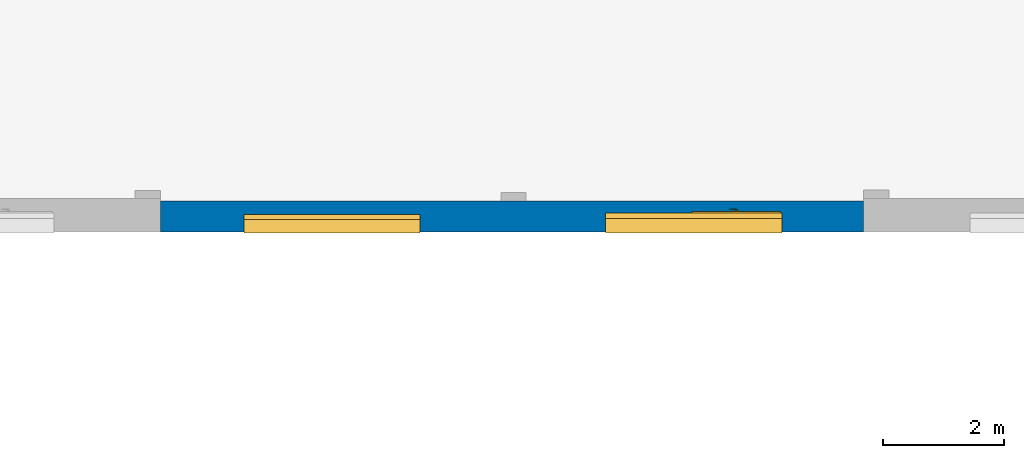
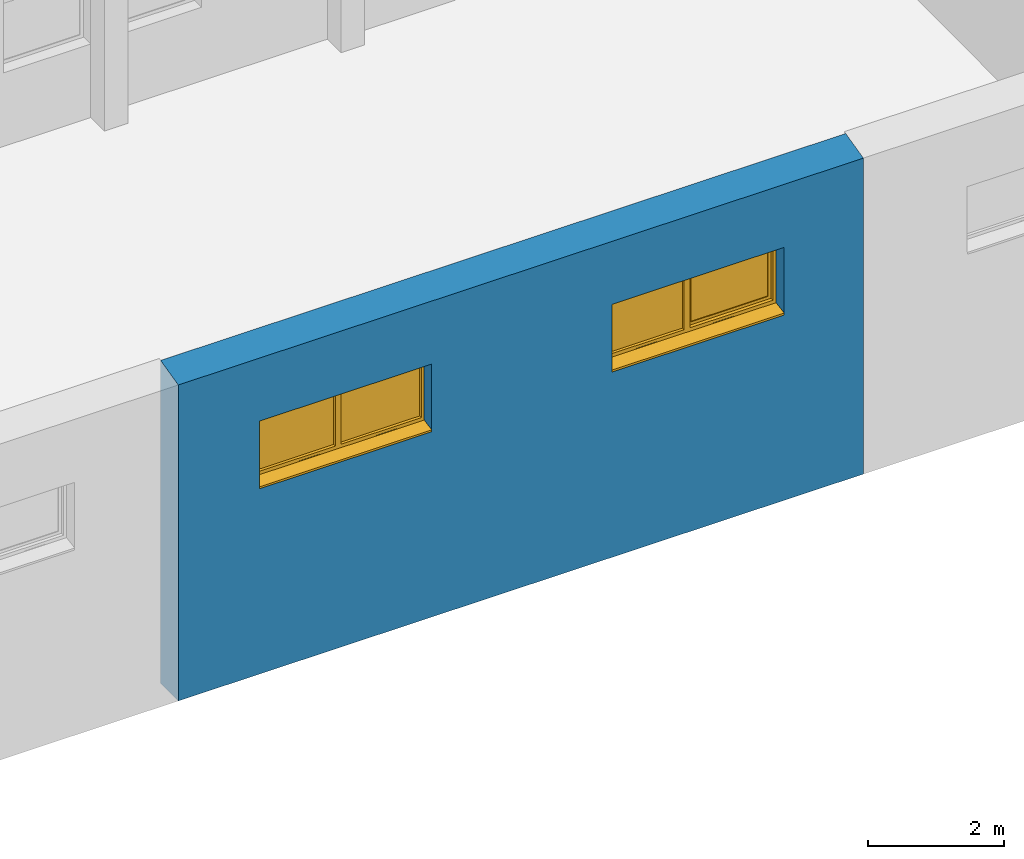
# One storey, part 156 of 301: 2 windows, 1 wall, 2 openings.
"""IFC2X3 building model written with IfcOpenShell, lengths in millimetres."""

from ifc_helpers import new_model, entity, si_unit, converted_unit, derived_unit, money_unit, direction, frame, origin_with_axes, place, context, subcontext, project, spatial, open_shell, faceted_brep, surface_model, material, type_object, element, fill, save


model = new_model("IFC2X3")

# Units and contexts
model_context = context("Model", 3, precision=0.01, world=origin_with_axes(), true_north=direction((0.0, 1.0)))
body_context = subcontext(model_context, "Body", "Model", "MODEL_VIEW")
ifc_project = project(units=[si_unit("LENGTHUNIT", "METRE", prefix="MILLI"), si_unit("AREAUNIT", "SQUARE_METRE"), si_unit("VOLUMEUNIT", "CUBIC_METRE"), converted_unit("PLANEANGLEUNIT", "DEGREE", entity("IfcPlaneAngleMeasure", 0.0174532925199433), si_unit("PLANEANGLEUNIT", "RADIAN"), dimensions=[0, 0, 0, 0, 0, 0, 0]), money_unit("EUR"), converted_unit("TIMEUNIT", "Year", entity("IfcTimeMeasure", 31557600.0), si_unit("TIMEUNIT", "SECOND"), dimensions=[0, 0, 1, 0, 0, 0, 0]), si_unit("MASSUNIT", "GRAM", prefix="KILO"), si_unit("THERMODYNAMICTEMPERATUREUNIT", "DEGREE_CELSIUS"), si_unit("LUMINOUSINTENSITYUNIT", "LUMEN"), si_unit("ENERGYUNIT", "JOULE", prefix="MEGA"), derived_unit("THERMALCONDUCTANCEUNIT", [(si_unit("POWERUNIT", "WATT"), 1), (si_unit("LENGTHUNIT", "METRE"), -1), (si_unit("THERMODYNAMICTEMPERATUREUNIT", "KELVIN"), -1)]), derived_unit("SPECIFICHEATCAPACITYUNIT", [(si_unit("ENERGYUNIT", "JOULE"), 1), (si_unit("MASSUNIT", "GRAM", prefix="KILO"), -1), (si_unit("THERMODYNAMICTEMPERATUREUNIT", "KELVIN"), -1)]), derived_unit("MASSDENSITYUNIT", [(si_unit("MASSUNIT", "GRAM", prefix="KILO"), 1), (si_unit("VOLUMEUNIT", "CUBIC_METRE"), -1)])], contexts=[model_context])

# Site, building, storey
site_placement = place(None, frame((0.0, 0.0, 8650.0), z_axis=(0.0, 0.0, 1.0), x_axis=(1.0, 0.0, 0.0)))
site = spatial("IfcSite", under=ifc_project, at=site_placement, Name="43301:001:0844", CompositionType="ELEMENT")
building_placement = place(site_placement, origin_with_axes())
building = spatial("IfcBuilding", under=site, at=building_placement, Name="Kuressaare Ametikooli tuulikute mehaanikute õppekorpus", CompositionType="ELEMENT")
storey_placement = place(building_placement, origin_with_axes())
storey = spatial("IfcBuildingStorey", under=building, at=storey_placement, Name="1.korrus", CompositionType="ELEMENT", Elevation=0.0)

# Wall, openings, windows
ifc_material = material(Name="GENEERILINE - KONSTRUKTRIOON")
wall_type = type_object("IfcWallType", Name="GENEERILINE - KONSTRUKTRIOON 520", PredefinedType="NOTDEFINED")
wall_placement = place(storey_placement, frame((170160.8131118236, 13517.65771690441, -1000.0), z_axis=(0.0, 0.0, 1.0), x_axis=(-1.0, 0.0, 0.0)))
wall = element("IfcWall", 1, at=wall_placement, inside=storey, type_object=wall_type, material=ifc_material, Name="VS-XX", context=body_context, shape_type="Brep", body=[
    faceted_brep([(11630.23317256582, -519.9999999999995, 5796.617852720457), (0.0, -519.9999999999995, 5796.617852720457), (0.0, -519.9999999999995, 0.0), (11630.23317256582, -520.0000000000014, 0.0), (7333.704679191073, -520.0000000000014, 3420.0), (7333.704679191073, -520.0000000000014, 4540.0), (10253.70467919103, -520.0000000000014, 4540.0), (10253.70467919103, -520.0000000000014, 3420.0), (4270.09379770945, -519.9999999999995, 4540.0), (4270.09379770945, -519.9999999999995, 3420.0), (1350.093797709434, -519.9999999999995, 3420.0), (1350.093797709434, -519.9999999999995, 4540.0), (0.0, 0.0, 5670.001135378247), (11630.23317256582, 0.0, 5670.001135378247), (0.0, 0.0, 0.0), (11630.23317256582, 0.0, 0.0), (7333.704679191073, -210.0000000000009, 3420.0), (7333.704679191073, -210.0000000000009, 4540.0), (10253.70467919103, -210.0000000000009, 4540.0), (10253.70467919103, -210.0000000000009, 3420.0), (4270.09379770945, -230.0000000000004, 3420.0), (4270.09379770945, -230.0000000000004, 4540.0), (1350.093797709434, -230.0000000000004, 3420.0), (1350.093797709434, -230.0000000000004, 4540.0), (7333.704679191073, 0.0, 4540.0), (7333.704679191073, 0.0, 3370.0), (10253.70467919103, 0.0, 3370.0), (10253.70467919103, 0.0, 4540.0), (4270.09379770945, 0.0, 3370.0), (4270.09379770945, 0.0, 4540.0), (1350.093797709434, 0.0, 4540.0), (1350.093797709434, 0.0, 3370.0), (7333.704679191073, -210.0000000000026, 3370.0), (10253.70467919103, -210.0000000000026, 3370.0), (4270.09379770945, -230.0000000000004, 3370.0), (1350.093797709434, -230.0000000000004, 3370.0)], [[[0, 1, 2, 3], [4, 5, 6, 7], [8, 9, 10, 11]], [[12, 1, 0, 13]], [[1, 12, 14, 2]], [[2, 14, 15, 3]], [[13, 0, 3, 15]], [[4, 16, 17, 5]], [[5, 17, 18, 6]], [[6, 18, 19, 7]], [[7, 19, 16, 4]], [[20, 9, 8, 21]], [[22, 10, 9, 20]], [[23, 11, 10, 22]], [[21, 8, 11, 23]], [[12, 13, 15, 14], [24, 25, 26, 27], [28, 29, 30, 31]], [[25, 24, 17, 16, 32]], [[17, 24, 27, 18]], [[26, 33, 19, 18, 27]], [[19, 33, 32, 16]], [[34, 20, 21, 29, 28]], [[35, 22, 20, 34]], [[30, 23, 22, 35, 31]], [[29, 21, 23, 30]], [[32, 33, 26, 25]], [[28, 31, 35, 34]]]),
])
opening_1_placement = place(wall_placement, frame((8793.704679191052, 0.0, 3420.0), z_axis=(0.0, 0.0, 1.0), x_axis=(1.0, 0.0, 0.0)))
opening_1 = element("IfcOpeningElement", 2, at=opening_1_placement, cuts=wall, Name="VA-XX", context=body_context, shape_type="Brep", body=[
    faceted_brep([(-1459.99999999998, -210.0000000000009, 0.0), (-1459.99999999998, -210.0000000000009, 1120.0), (-1459.99999999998, 0.9999999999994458, 1120.0), (-1459.99999999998, 0.9999999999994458, -49.99999999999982), (-1459.99999999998, -210.0000000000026, -49.99999999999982), (-1459.99999999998, -520.999999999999, 0.0), (-1459.99999999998, -520.999999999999, 1120.0), (1459.99999999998, -210.0000000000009, 1120.0), (1459.99999999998, 0.9999999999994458, 1120.0), (1459.99999999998, 0.9999999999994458, -49.99999999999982), (1459.99999999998, -210.0000000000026, -49.99999999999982), (1459.99999999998, -210.0000000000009, 0.0), (1459.99999999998, -520.999999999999, 0.0), (1459.99999999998, -520.999999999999, 1120.0)], [[[0, 1, 2, 3, 4]], [[1, 0, 5, 6]], [[1, 7, 8, 2]], [[8, 9, 3, 2]], [[10, 4, 3, 9]], [[11, 0, 4, 10]], [[0, 11, 12, 5]], [[6, 5, 12, 13]], [[7, 1, 6, 13]], [[7, 11, 10, 9, 8]], [[11, 7, 13, 12]]]),
])
opening_2_placement = place(wall_placement, frame((2810.093797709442, 0.0, 3420.0), z_axis=(0.0, 0.0, 1.0), x_axis=(1.0, 0.0, 0.0)))
opening_2 = element("IfcOpeningElement", 3, at=opening_2_placement, cuts=wall, Name="VA-XX", context=body_context, shape_type="Brep", body=[
    faceted_brep([(-1460.000000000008, -230.0000000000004, 0.0), (-1460.000000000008, -230.0000000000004, 1120.0), (-1460.000000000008, 1.000000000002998, 1120.0), (-1460.000000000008, 1.000000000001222, -49.99999999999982), (-1460.000000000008, -230.0000000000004, -49.99999999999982), (-1460.000000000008, -520.999999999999, 0.0), (-1460.000000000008, -520.999999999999, 1120.0), (1460.000000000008, -230.0000000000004, 1120.0), (1460.000000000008, 1.000000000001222, 1120.0), (1460.000000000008, 1.000000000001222, -49.99999999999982), (1460.000000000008, -230.0000000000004, -49.99999999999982), (1460.000000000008, -230.0000000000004, 0.0), (1460.000000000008, -520.999999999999, 0.0), (1460.000000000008, -520.999999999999, 1120.0)], [[[0, 1, 2, 3, 4]], [[1, 0, 5, 6]], [[1, 7, 8, 2]], [[8, 9, 3, 2]], [[10, 4, 3, 9]], [[11, 0, 4, 10]], [[0, 11, 12, 5]], [[6, 5, 12, 13]], [[7, 1, 6, 13]], [[7, 11, 10, 9, 8]], [[11, 7, 13, 12]]]),
])
window_style_1 = type_object("IfcWindowStyle", Name="Double Window 27", ConstructionType="NOTDEFINED", OperationType="DOUBLE_PANEL_VERTICAL", ParameterTakesPrecedence=False, Sizeable=False)
window_1_placement = place(opening_1_placement, frame((1459.99999999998, 0.0, 0.0), z_axis=(0.0, 0.0, 1.0), x_axis=(-1.0, 0.0, 0.0)))
window_1 = element("IfcWindow", 4, at=window_1_placement, inside=storey, type_object=window_style_1, Name="VA-XX", OverallHeight=1120.0, OverallWidth=2920.0, context=body_context, shape_type="SurfaceModel", body=[
    surface_model("IfcShellBasedSurfaceModel", [(0.0, 209.0000000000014, -9.999999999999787), (0.0, -9.99999999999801, -51.9047619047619), (2919.999999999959, -9.99999999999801, -51.9047619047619), (2919.999999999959, 209.0000000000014, -10.00000000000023), (0.0, -9.99999999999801, -86.9047619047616), (2919.999999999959, -9.99999999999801, -86.90476190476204), (2919.999999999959, 209.0000000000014, 0.0), (0.0, 209.0000000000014, 0.0), (0.0, -4.999999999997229, -81.9047619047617), (2919.999999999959, -4.999999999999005, -81.90476190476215)], [open_shell([[[0, 1, 2, 3]], [[4, 5, 2, 1]], [[0, 3, 6, 7]], [[8, 9, 5, 4]]])]),
    faceted_brep([(2869.999999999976, 210.0000000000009, 1070.0), (2919.999999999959, 210.0000000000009, 1070.0), (2919.999999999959, 295.0000000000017, 1070.0), (2869.999999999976, 295.0000000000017, 1070.0), (2869.999999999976, 210.0000000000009, 49.99999999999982), (2919.999999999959, 210.0000000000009, 49.99999999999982), (2919.999999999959, 295.0000000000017, 49.99999999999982), (2869.999999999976, 295.0000000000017, 49.99999999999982)], [[[0, 1, 2, 3]], [[0, 4, 5, 1]], [[1, 5, 6, 2]], [[3, 2, 6, 7]], [[4, 0, 3, 7]], [[5, 4, 7, 6]]]),
    faceted_brep([(49.99999999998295, 210.0000000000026, 49.99999999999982), (0.0, 210.0000000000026, 49.99999999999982), (0.0, 295.0000000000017, 49.99999999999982), (49.99999999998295, 295.0000000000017, 49.99999999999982), (49.99999999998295, 210.0000000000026, 1070.0), (0.0, 210.0000000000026, 1070.0), (0.0, 295.0000000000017, 1070.0), (49.99999999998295, 295.0000000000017, 1070.0)], [[[0, 1, 2, 3]], [[0, 4, 5, 1]], [[1, 5, 6, 2]], [[3, 2, 6, 7]], [[4, 0, 3, 7]], [[5, 4, 7, 6]]]),
    faceted_brep([(1509.999999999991, 210.0000000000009, 49.99999999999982), (1409.999999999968, 210.0000000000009, 49.99999999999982), (1409.999999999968, 295.0000000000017, 49.99999999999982), (1509.999999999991, 295.0000000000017, 49.99999999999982), (1509.999999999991, 210.0000000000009, 1070.0), (1409.999999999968, 210.0000000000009, 1070.0), (1409.999999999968, 295.0000000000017, 1070.0), (1509.999999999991, 295.0000000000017, 1070.0)], [[[0, 1, 2, 3]], [[0, 4, 5, 1]], [[1, 5, 6, 2]], [[3, 2, 6, 7]], [[4, 0, 3, 7]], [[5, 4, 7, 6]]]),
    faceted_brep([(2869.999999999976, 210.0000000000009, 49.99999999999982), (2919.999999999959, 210.0000000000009, 49.99999999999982), (2919.999999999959, 295.0000000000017, 49.99999999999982), (2869.999999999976, 295.0000000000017, 49.99999999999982), (1509.999999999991, 210.0000000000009, 49.99999999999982), (1409.999999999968, 210.0000000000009, 49.99999999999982), (49.99999999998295, 210.0000000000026, 49.99999999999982), (0.0, 210.0000000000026, 49.99999999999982), (0.0, 210.0000000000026, 0.0), (2919.999999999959, 210.0000000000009, 0.0), (2919.999999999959, 295.0000000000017, 0.0), (0.0, 295.0000000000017, 0.0), (0.0, 295.0000000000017, 49.99999999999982), (49.99999999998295, 295.0000000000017, 49.99999999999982), (1409.999999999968, 295.0000000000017, 49.99999999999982), (1509.999999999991, 295.0000000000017, 49.99999999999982)], [[[0, 1, 2, 3]], [[0, 4, 5, 6, 7, 8, 9, 1]], [[1, 9, 10, 2]], [[3, 2, 10, 11, 12, 13, 14, 15]], [[4, 0, 3, 15]], [[5, 4, 15, 14]], [[6, 5, 14, 13]], [[7, 6, 13, 12]], [[8, 7, 12, 11]], [[9, 8, 11, 10]]]),
    faceted_brep([(1509.999999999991, 210.0000000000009, 1070.0), (1409.999999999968, 210.0000000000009, 1070.0), (1409.999999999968, 295.0000000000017, 1070.0), (1509.999999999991, 295.0000000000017, 1070.0), (2869.999999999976, 210.0000000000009, 1070.0), (2919.999999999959, 210.0000000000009, 1070.0), (2919.999999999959, 210.0000000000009, 1120.0), (0.0, 210.0000000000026, 1120.0), (0.0, 210.0000000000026, 1070.0), (49.99999999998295, 210.0000000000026, 1070.0), (49.99999999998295, 295.0000000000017, 1070.0), (0.0, 295.0000000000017, 1070.0), (0.0, 295.0000000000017, 1120.0), (2919.999999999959, 295.0000000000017, 1120.0), (2919.999999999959, 295.0000000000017, 1070.0), (2869.999999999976, 295.0000000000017, 1070.0)], [[[0, 1, 2, 3]], [[0, 4, 5, 6, 7, 8, 9, 1]], [[1, 9, 10, 2]], [[3, 2, 10, 11, 12, 13, 14, 15]], [[4, 0, 3, 15]], [[5, 4, 15, 14]], [[6, 5, 14, 13]], [[7, 6, 13, 12]], [[8, 7, 12, 11]], [[9, 8, 11, 10]]]),
    surface_model("IfcShellBasedSurfaceModel", [(2869.999999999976, 260.0000000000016, 49.99999999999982), (2869.999999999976, 260.0000000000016, 1070.0), (1509.999999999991, 260.0000000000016, 1070.0), (1509.999999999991, 260.0000000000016, 49.99999999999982)], [open_shell([[[0, 1, 2, 3]]])]),
    surface_model("IfcShellBasedSurfaceModel", [(2869.999999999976, 280.0000000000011, 49.99999999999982), (1509.999999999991, 280.0000000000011, 49.99999999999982), (1509.999999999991, 280.0000000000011, 1070.0), (2869.999999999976, 280.0000000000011, 1070.0)], [open_shell([[[0, 1, 2, 3]]])]),
    surface_model("IfcShellBasedSurfaceModel", [(1409.999999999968, 260.0000000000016, 49.99999999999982), (1409.999999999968, 260.0000000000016, 1070.0), (49.99999999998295, 260.0000000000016, 1070.0), (49.99999999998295, 260.0000000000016, 49.99999999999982)], [open_shell([[[0, 1, 2, 3]]])]),
    surface_model("IfcShellBasedSurfaceModel", [(1409.999999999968, 280.0000000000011, 49.99999999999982), (49.99999999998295, 280.0000000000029, 49.99999999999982), (49.99999999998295, 280.0000000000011, 1070.0), (1409.999999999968, 280.0000000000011, 1070.0)], [open_shell([[[0, 1, 2, 3]]])]),
])
fill(opening_1, window_1)
window_style_2 = type_object("IfcWindowStyle", Name="Double Window 27", ConstructionType="NOTDEFINED", OperationType="DOUBLE_PANEL_VERTICAL", ParameterTakesPrecedence=False, Sizeable=False)
window_2_placement = place(opening_2_placement, frame((1460.000000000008, 0.0, 0.0), z_axis=(0.0, 0.0, 1.0), x_axis=(-1.0, 0.0, 0.0)))
window_2 = element("IfcWindow", 5, at=window_2_placement, inside=storey, type_object=window_style_2, Name="VA-XX", OverallHeight=1120.0, OverallWidth=2920.0, context=body_context, shape_type="SurfaceModel", body=[
    surface_model("IfcShellBasedSurfaceModel", [(0.0, 228.9999999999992, -9.999999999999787), (0.0, -9.999999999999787, -51.73913043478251), (2920.000000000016, -10.00000000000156, -51.73913043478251), (2920.000000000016, 228.9999999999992, -10.00000000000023), (0.0, -9.999999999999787, -86.73913043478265), (2920.000000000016, -10.00000000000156, -86.73913043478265), (2920.000000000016, 228.9999999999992, 0.0), (0.0, 228.9999999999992, 0.0), (0.0, -5.000000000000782, -81.73913043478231), (2920.000000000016, -5.000000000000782, -81.73913043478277)], [open_shell([[[0, 1, 2, 3]], [[4, 5, 2, 1]], [[0, 3, 6, 7]], [[8, 9, 5, 4]]])]),
    faceted_brep([(2895.00000000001, 314.9999999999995, 1070.0), (2895.00000000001, 289.9999999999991, 1070.0), (2870.000000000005, 289.9999999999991, 1070.0), (2870.000000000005, 229.9999999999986, 1070.0), (2920.000000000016, 229.9999999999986, 1070.0), (2920.000000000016, 314.9999999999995, 1070.0), (2895.00000000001, 314.9999999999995, 50.00000000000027), (2895.00000000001, 289.9999999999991, 49.99999999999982), (2870.000000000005, 289.9999999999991, 49.99999999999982), (2870.000000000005, 229.9999999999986, 49.99999999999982), (2920.000000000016, 229.9999999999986, 49.99999999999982), (2920.000000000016, 314.9999999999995, 50.00000000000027)], [[[0, 1, 2, 3, 4, 5]], [[1, 0, 6, 7]], [[8, 2, 1, 7]], [[2, 8, 9, 3]], [[4, 3, 9, 10]], [[5, 4, 10, 11]], [[6, 0, 5, 11]], [[7, 6, 11, 10, 9, 8]]]),
    faceted_brep([(1460.000000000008, 289.9999999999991, 1070.0), (1435.000000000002, 289.9999999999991, 1070.0), (1435.000000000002, 314.9999999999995, 1070.0), (1360.000000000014, 314.9999999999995, 1070.0), (1360.000000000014, 229.9999999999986, 1070.0), (1460.000000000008, 229.9999999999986, 1070.0), (1460.000000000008, 289.9999999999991, 49.99999999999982), (1435.000000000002, 289.9999999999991, 49.99999999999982), (1435.000000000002, 314.9999999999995, 50.00000000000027), (1360.000000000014, 314.9999999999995, 50.00000000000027), (1360.000000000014, 229.9999999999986, 49.99999999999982), (1460.000000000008, 229.9999999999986, 49.99999999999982)], [[[0, 1, 2, 3, 4, 5]], [[1, 0, 6, 7]], [[8, 2, 1, 7]], [[2, 8, 9, 3]], [[9, 10, 4, 3]], [[10, 11, 5, 4]], [[6, 0, 5, 11]], [[7, 6, 11, 10, 9, 8]]]),
    faceted_brep([(1460.000000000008, 289.9999999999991, 49.99999999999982), (1435.000000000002, 289.9999999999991, 49.99999999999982), (1435.000000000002, 314.9999999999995, 50.00000000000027), (1360.000000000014, 314.9999999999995, 50.00000000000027), (1360.000000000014, 229.9999999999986, 49.99999999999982), (1460.000000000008, 229.9999999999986, 49.99999999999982), (2870.000000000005, 289.9999999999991, 49.99999999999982), (2895.00000000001, 289.9999999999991, 49.99999999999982), (2895.00000000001, 289.9999999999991, 24.99999999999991), (1435.000000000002, 289.9999999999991, 24.99999999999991), (1435.000000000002, 314.9999999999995, 24.99999999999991), (2895.00000000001, 314.9999999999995, 24.99999999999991), (2895.00000000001, 314.9999999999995, 50.00000000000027), (2920.000000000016, 314.9999999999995, 50.00000000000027), (2920.000000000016, 314.9999999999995, 0.0), (0.0, 314.9999999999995, 0.0), (0.0, 314.9999999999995, 50.00000000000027), (50.00000000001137, 314.9999999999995, 50.00000000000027), (50.00000000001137, 230.0000000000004, 49.99999999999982), (2920.000000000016, 229.9999999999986, 49.99999999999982), (2870.000000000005, 229.9999999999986, 49.99999999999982), (0.0, 230.0000000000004, 49.99999999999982), (0.0, 230.0000000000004, 0.0), (2920.000000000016, 229.9999999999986, 0.0)], [[[0, 1, 2, 3, 4, 5]], [[1, 0, 6, 7, 8, 9]], [[10, 2, 1, 9]], [[11, 12, 13, 14, 15, 16, 17, 3, 2, 10]], [[17, 18, 4, 3]], [[19, 20, 5, 4, 18, 21, 22, 23]], [[6, 0, 5, 20]], [[7, 6, 20, 19, 13, 12]], [[7, 12, 11, 8]], [[11, 10, 9, 8]], [[13, 19, 23, 14]], [[14, 23, 22, 15]], [[15, 22, 21, 16]], [[16, 21, 18, 17]]]),
    faceted_brep([(2895.00000000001, 314.9999999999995, 1070.0), (2895.00000000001, 314.9999999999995, 1095.0), (1435.000000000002, 314.9999999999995, 1095.0), (1435.000000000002, 314.9999999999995, 1070.0), (1360.000000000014, 314.9999999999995, 1070.0), (50.00000000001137, 314.9999999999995, 1070.0), (0.0, 314.9999999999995, 1070.0), (0.0, 314.9999999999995, 1120.0), (2920.000000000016, 314.9999999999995, 1120.0), (2920.000000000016, 314.9999999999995, 1070.0), (2895.00000000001, 289.9999999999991, 1070.0), (2895.00000000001, 289.9999999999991, 1095.0), (1435.000000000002, 289.9999999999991, 1095.0), (1435.000000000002, 289.9999999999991, 1070.0), (1460.000000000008, 289.9999999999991, 1070.0), (1460.000000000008, 229.9999999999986, 1070.0), (1360.000000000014, 229.9999999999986, 1070.0), (50.00000000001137, 230.0000000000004, 1070.0), (0.0, 230.0000000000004, 1070.0), (0.0, 230.0000000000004, 1120.0), (2920.000000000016, 229.9999999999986, 1120.0), (2920.000000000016, 229.9999999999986, 1070.0), (2870.000000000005, 229.9999999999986, 1070.0), (2870.000000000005, 289.9999999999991, 1070.0)], [[[0, 1, 2, 3, 4, 5, 6, 7, 8, 9]], [[1, 0, 10, 11]], [[2, 1, 11, 12]], [[3, 2, 12, 13]], [[13, 14, 15, 16, 4, 3]], [[4, 16, 17, 5]], [[5, 17, 18, 6]], [[6, 18, 19, 7]], [[7, 19, 20, 8]], [[8, 20, 21, 9]], [[10, 0, 9, 21, 22, 23]], [[14, 13, 12, 11, 10, 23]], [[14, 23, 22, 15]], [[16, 15, 22, 21, 20, 19, 18, 17]]]),
    faceted_brep([(50.00000000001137, 230.0000000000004, 49.99999999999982), (0.0, 230.0000000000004, 49.99999999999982), (0.0, 314.9999999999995, 49.99999999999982), (50.00000000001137, 314.9999999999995, 49.99999999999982), (50.00000000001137, 230.0000000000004, 1070.0), (0.0, 230.0000000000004, 1070.0), (0.0, 314.9999999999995, 1070.0), (50.00000000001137, 314.9999999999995, 1070.0)], [[[0, 1, 2, 3]], [[0, 4, 5, 1]], [[1, 5, 6, 2]], [[3, 2, 6, 7]], [[4, 0, 3, 7]], [[5, 4, 7, 6]]]),
    faceted_brep([(2192.000000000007, 339.9999999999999, 1041.5), (2192.000000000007, 351.9999999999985, 1041.5), (2197.000000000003, 351.9999999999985, 1042.839745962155), (2197.000000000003, 339.9999999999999, 1042.839745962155), (2138.000000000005, 339.9999999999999, 1041.5), (2138.000000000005, 351.9999999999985, 1041.5), (2133.00000000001, 351.9999999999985, 1042.839745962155), (2129.33974596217, 351.9999999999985, 1046.5), (2128.000000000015, 351.9999999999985, 1051.5), (2128.000000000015, 351.9999999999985, 1063.5), (2129.33974596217, 351.9999999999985, 1068.5), (2133.00000000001, 351.9999999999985, 1072.160254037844), (2138.000000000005, 351.9999999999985, 1073.5), (2192.000000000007, 351.9999999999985, 1073.5), (2197.000000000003, 351.9999999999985, 1072.160254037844), (2200.660254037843, 351.9999999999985, 1068.5), (2201.999999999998, 351.9999999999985, 1063.5), (2201.999999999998, 351.9999999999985, 1051.5), (2200.660254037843, 351.9999999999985, 1046.5), (2200.660254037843, 339.9999999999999, 1046.5), (2201.999999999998, 339.9999999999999, 1051.5), (2201.999999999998, 339.9999999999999, 1063.5), (2200.660254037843, 339.9999999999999, 1068.5), (2197.000000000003, 339.9999999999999, 1072.160254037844), (2192.000000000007, 339.9999999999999, 1073.5), (2138.000000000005, 339.9999999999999, 1073.5), (2133.00000000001, 339.9999999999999, 1072.160254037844), (2129.33974596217, 339.9999999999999, 1068.5), (2128.000000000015, 339.9999999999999, 1063.5), (2128.000000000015, 339.9999999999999, 1051.5), (2129.33974596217, 339.9999999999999, 1046.5), (2133.00000000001, 339.9999999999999, 1042.839745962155)], [[[0, 1, 2, 3]], [[4, 5, 1, 0]], [[1, 5, 6, 7, 8, 9, 10, 11, 12, 13, 14, 15, 16, 17, 18, 2]], [[3, 2, 18, 19]], [[0, 3, 19, 20, 21, 22, 23, 24, 25, 26, 27, 28, 29, 30, 31, 4]], [[31, 6, 5, 4]], [[30, 7, 6, 31]], [[29, 8, 7, 30]], [[28, 9, 8, 29]], [[27, 10, 9, 28]], [[26, 11, 10, 27]], [[25, 12, 11, 26]], [[24, 13, 12, 25]], [[23, 14, 13, 24]], [[22, 15, 14, 23]], [[21, 16, 15, 22]], [[20, 17, 16, 21]], [[19, 18, 17, 20]]]),
    faceted_brep([(2178.500000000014, 351.9999999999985, 1057.5), (2178.500000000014, 375.9999999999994, 1057.5), (2176.691342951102, 375.9999999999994, 1064.25), (2176.691342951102, 351.9999999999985, 1064.25), (2176.691342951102, 351.9999999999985, 1050.75), (2176.691342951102, 375.9999999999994, 1050.75), (2171.750000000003, 375.9999999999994, 1045.80865704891), (2164.999999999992, 375.9999999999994, 1044.0), (2158.25000000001, 375.9999999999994, 1045.80865704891), (2153.30865704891, 375.9999999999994, 1050.75), (2151.499999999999, 375.9999999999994, 1057.5), (2153.30865704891, 375.9999999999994, 1064.25), (2158.25000000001, 375.9999999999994, 1069.19134295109), (2164.999999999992, 375.9999999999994, 1071.0), (2171.750000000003, 375.9999999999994, 1069.19134295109), (2171.750000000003, 351.9999999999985, 1069.19134295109), (2164.999999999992, 351.9999999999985, 1071.0), (2158.25000000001, 351.9999999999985, 1069.19134295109), (2153.30865704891, 351.9999999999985, 1064.25), (2151.499999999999, 351.9999999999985, 1057.5), (2153.30865704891, 351.9999999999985, 1050.75), (2158.25000000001, 351.9999999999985, 1045.80865704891), (2164.999999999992, 351.9999999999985, 1044.0), (2171.750000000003, 351.9999999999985, 1045.80865704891)], [[[0, 1, 2, 3]], [[4, 5, 1, 0]], [[1, 5, 6, 7, 8, 9, 10, 11, 12, 13, 14, 2]], [[3, 2, 14, 15]], [[0, 3, 15, 16, 17, 18, 19, 20, 21, 22, 23, 4]], [[23, 6, 5, 4]], [[22, 7, 6, 23]], [[21, 8, 7, 22]], [[20, 9, 8, 21]], [[19, 10, 9, 20]], [[18, 11, 10, 19]], [[17, 12, 11, 18]], [[16, 13, 12, 17]], [[15, 14, 13, 16]]]),
    faceted_brep([(2057.999999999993, 375.9999999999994, 1046.0), (2061.000000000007, 375.9999999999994, 1044.0), (2164.999999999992, 375.9999999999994, 1044.0), (2171.750000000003, 375.9999999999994, 1045.80865704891), (2176.691342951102, 375.9999999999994, 1050.75), (2178.500000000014, 375.9999999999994, 1057.5), (2176.691342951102, 375.9999999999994, 1064.25), (2171.750000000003, 375.9999999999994, 1069.19134295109), (2164.999999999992, 375.9999999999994, 1071.0), (2061.000000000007, 375.9999999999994, 1071.0), (2057.999999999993, 375.9999999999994, 1069.0), (2055.000000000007, 375.9999999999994, 1057.5), (2058.000000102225, 383.9999999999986, 1045.999999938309), (2060.999999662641, 383.9999999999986, 1043.999999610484), (2164.999999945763, 383.9999999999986, 1043.999999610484), (2171.749999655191, 383.9999999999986, 1045.808656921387), (2176.691342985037, 383.9999999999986, 1050.750000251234), (2178.50000029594, 383.9999999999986, 1057.499999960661), (2176.691342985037, 383.9999999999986, 1064.249999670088), (2171.749999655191, 383.9999999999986, 1069.191342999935), (2164.999999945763, 383.9999999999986, 1071.000000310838), (2060.999999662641, 383.9999999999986, 1071.000000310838), (2058.000000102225, 383.9999999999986, 1068.999999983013), (2054.999999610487, 383.9999999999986, 1057.499999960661), (2060.614519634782, 386.9999995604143, 1047.862537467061), (2061.908326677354, 386.9999995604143, 1046.999999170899), (2164.605042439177, 386.9999995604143, 1046.999999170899), (2170.197085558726, 386.9999995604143, 1048.498382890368), (2174.001617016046, 386.9999995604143, 1052.302914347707), (2175.394172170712, 386.9999995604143, 1057.499999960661), (2174.001617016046, 386.9999995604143, 1062.697085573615), (2170.197085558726, 386.9999995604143, 1066.501617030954), (2164.605042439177, 386.9999995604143, 1068.000000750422), (2061.908326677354, 386.9999995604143, 1068.000000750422), (2060.614519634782, 386.9999995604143, 1067.137462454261), (2058.100398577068, 386.9999995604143, 1057.499999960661)], [[[0, 1, 2, 3, 4, 5, 6, 7, 8, 9, 10, 11]], [[0, 12, 13, 1]], [[1, 13, 14, 2]], [[2, 14, 15, 3]], [[3, 15, 16, 4]], [[4, 16, 17, 5]], [[5, 17, 18, 6]], [[6, 18, 19, 7]], [[7, 19, 20, 8]], [[8, 20, 21, 9]], [[9, 21, 22, 10]], [[10, 22, 23, 11]], [[11, 23, 12, 0]], [[12, 24, 25, 13]], [[13, 25, 26, 14]], [[14, 26, 27, 15]], [[15, 27, 28, 16]], [[16, 28, 29, 17]], [[17, 29, 30, 18]], [[18, 30, 31, 19]], [[19, 31, 32, 20]], [[20, 32, 33, 21]], [[21, 33, 34, 22]], [[22, 34, 35, 23]], [[23, 35, 24, 12]], [[34, 33, 32, 31, 30, 29, 28, 27, 26, 25, 24, 35]]]),
    faceted_brep([(2819.999999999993, 289.9999999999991, 1020.0), (2895.00000000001, 289.9999999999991, 1020.0), (2895.00000000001, 339.9999999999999, 1020.0), (2819.999999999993, 339.9999999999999, 1020.0), (2819.999999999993, 289.9999999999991, 100.0000000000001), (2895.00000000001, 289.9999999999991, 100.0000000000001), (2895.00000000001, 339.9999999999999, 100.0000000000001), (2819.999999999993, 339.9999999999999, 100.0000000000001)], [[[0, 1, 2, 3]], [[0, 4, 5, 1]], [[1, 5, 6, 2]], [[3, 2, 6, 7]], [[4, 0, 3, 7]], [[5, 4, 7, 6]]]),
    faceted_brep([(1510.000000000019, 289.9999999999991, 100.0000000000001), (1435.000000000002, 289.9999999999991, 100.0000000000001), (1435.000000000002, 339.9999999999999, 100.0000000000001), (1510.000000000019, 339.9999999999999, 100.0000000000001), (1510.000000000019, 289.9999999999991, 1020.0), (1435.000000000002, 289.9999999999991, 1020.0), (1435.000000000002, 339.9999999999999, 1020.0), (1510.000000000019, 339.9999999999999, 1020.0)], [[[0, 1, 2, 3]], [[0, 4, 5, 1]], [[1, 5, 6, 2]], [[3, 2, 6, 7]], [[4, 0, 3, 7]], [[5, 4, 7, 6]]]),
    faceted_brep([(1435.000000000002, 289.9999999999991, 24.99999999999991), (1435.000000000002, 289.9999999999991, 100.0000000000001), (1435.000000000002, 339.9999999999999, 100.0000000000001), (1435.000000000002, 339.9999999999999, 24.99999999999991), (2895.00000000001, 289.9999999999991, 24.99999999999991), (2895.00000000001, 289.9999999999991, 100.0000000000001), (2819.999999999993, 289.9999999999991, 100.0000000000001), (1510.000000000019, 289.9999999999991, 100.0000000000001), (1510.000000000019, 339.9999999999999, 100.0000000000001), (2819.999999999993, 339.9999999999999, 100.0000000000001), (2895.00000000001, 339.9999999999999, 100.0000000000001), (2895.00000000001, 339.9999999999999, 24.99999999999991)], [[[0, 1, 2, 3]], [[0, 4, 5, 6, 7, 1]], [[1, 7, 8, 2]], [[3, 2, 8, 9, 10, 11]], [[4, 0, 3, 11]], [[5, 4, 11, 10]], [[6, 5, 10, 9]], [[7, 6, 9, 8]]]),
    faceted_brep([(2895.00000000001, 289.9999999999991, 1095.0), (2895.00000000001, 289.9999999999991, 1020.0), (2895.00000000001, 339.9999999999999, 1020.0), (2895.00000000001, 339.9999999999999, 1095.0), (1435.000000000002, 289.9999999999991, 1095.0), (1435.000000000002, 289.9999999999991, 1020.0), (1510.000000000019, 289.9999999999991, 1020.0), (2819.999999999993, 289.9999999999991, 1020.0), (2819.999999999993, 339.9999999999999, 1020.0), (1510.000000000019, 339.9999999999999, 1020.0), (1435.000000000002, 339.9999999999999, 1020.0), (1435.000000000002, 339.9999999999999, 1095.0)], [[[0, 1, 2, 3]], [[0, 4, 5, 6, 7, 1]], [[1, 7, 8, 2]], [[3, 2, 8, 9, 10, 11]], [[4, 0, 3, 11]], [[5, 4, 11, 10]], [[6, 5, 10, 9]], [[7, 6, 9, 8]]]),
    surface_model("IfcShellBasedSurfaceModel", [(2819.999999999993, 304.9999999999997, 100.0000000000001), (2819.999999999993, 304.9999999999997, 1020.0), (1510.000000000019, 304.9999999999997, 1020.0), (1510.000000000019, 304.9999999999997, 100.0000000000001)], [open_shell([[[0, 1, 2, 3]]])]),
    surface_model("IfcShellBasedSurfaceModel", [(2819.999999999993, 324.9999999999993, 100.0000000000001), (1510.000000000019, 324.9999999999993, 100.0000000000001), (1510.000000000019, 324.9999999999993, 1020.0), (2819.999999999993, 324.9999999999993, 1020.0)], [open_shell([[[0, 1, 2, 3]]])]),
    surface_model("IfcShellBasedSurfaceModel", [(1360.000000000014, 279.9999999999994, 49.99999999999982), (1360.000000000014, 279.9999999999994, 1070.0), (50.00000000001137, 279.9999999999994, 1070.0), (50.00000000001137, 279.9999999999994, 49.99999999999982)], [open_shell([[[0, 1, 2, 3]]])]),
    surface_model("IfcShellBasedSurfaceModel", [(1360.000000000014, 299.9999999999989, 49.99999999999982), (50.00000000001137, 300.0000000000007, 49.99999999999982), (50.00000000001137, 299.9999999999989, 1070.0), (1360.000000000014, 299.9999999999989, 1070.0)], [open_shell([[[0, 1, 2, 3]]])]),
])
fill(opening_2, window_2)

save(model, "model.ifc")
